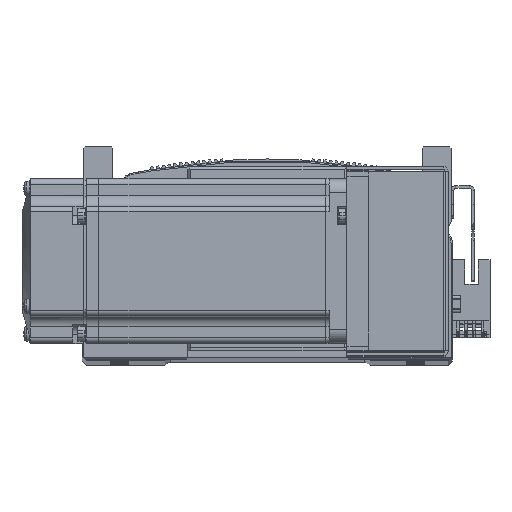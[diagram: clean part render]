
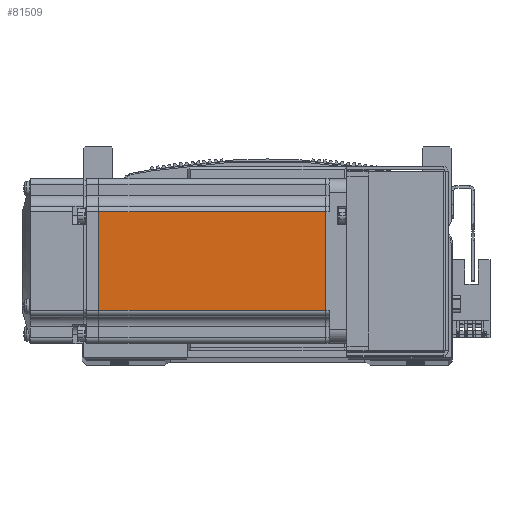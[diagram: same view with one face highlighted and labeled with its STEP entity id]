
A CAD part, top view. The second image highlights one B-rep face of the part: STEP entity #81509.
In plain terms, the highlighted planar face has unit normal (0, 0, 1) as drawn and (0, -1, 0) by its records, which use the part's own axes.
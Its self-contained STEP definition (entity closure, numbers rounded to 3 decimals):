
#322 = CARTESIAN_POINT ( 'NONE',  ( -7.75, -30., 18. ) ) ;
#326 = CARTESIAN_POINT ( 'NONE',  ( -90.45, -30., -18. ) ) ;
#352 = CARTESIAN_POINT ( 'NONE',  ( -90.45, -30., 18. ) ) ;
#422 = CARTESIAN_POINT ( 'NONE',  ( -7.75, -30., -18. ) ) ;
#5723 = FACE_OUTER_BOUND ( 'NONE', #40650, .T. ) ;
#6323 = EDGE_CURVE ( 'NONE', #74642, #74656, #35596, .T. ) ;
#6361 = EDGE_CURVE ( 'NONE', #74642, #74721, #35949, .T. ) ;
#6447 = EDGE_CURVE ( 'NONE', #74721, #74651, #36035, .T. ) ;
#6571 = EDGE_CURVE ( 'NONE', #74656, #74651, #36272, .T. ) ;
#13757 = AXIS2_PLACEMENT_3D ( 'NONE', #25677, #25678, #25696 ) ;
#25677 = CARTESIAN_POINT ( 'NONE',  ( -6.5, -30., -25. ) ) ;
#25678 = DIRECTION ( 'NONE',  ( 0., -1., 0. ) ) ;
#25696 = DIRECTION ( 'NONE',  ( 0., 0., -1. ) ) ;
#25708 = PLANE ( 'NONE',  #13757 ) ;
#35596 = LINE ( 'NONE', #82142, #35736 ) ;
#35736 = VECTOR ( 'NONE', #82103, 1000. ) ;
#35790 = VECTOR ( 'NONE', #82154, 1000. ) ;
#35949 = LINE ( 'NONE', #82163, #35790 ) ;
#36035 = LINE ( 'NONE', #82241, #36175 ) ;
#36175 = VECTOR ( 'NONE', #82290, 1000. ) ;
#36272 = LINE ( 'NONE', #82444, #36305 ) ;
#36305 = VECTOR ( 'NONE', #82420, 1000. ) ;
#40650 = EDGE_LOOP ( 'NONE', ( #80737, #80754, #80755, #80740 ) ) ;
#74642 = VERTEX_POINT ( 'NONE', #322 ) ;
#74651 = VERTEX_POINT ( 'NONE', #326 ) ;
#74656 = VERTEX_POINT ( 'NONE', #352 ) ;
#74721 = VERTEX_POINT ( 'NONE', #422 ) ;
#80737 = ORIENTED_EDGE ( 'NONE', *, *, #6361, .F. ) ;
#80740 = ORIENTED_EDGE ( 'NONE', *, *, #6447, .F. ) ;
#80754 = ORIENTED_EDGE ( 'NONE', *, *, #6323, .T. ) ;
#80755 = ORIENTED_EDGE ( 'NONE', *, *, #6571, .T. ) ;
#81509 = ADVANCED_FACE ( 'NONE', ( #5723 ), #25708, .T. ) ;
#82103 = DIRECTION ( 'NONE',  ( -1., 0., 0. ) ) ;
#82142 = CARTESIAN_POINT ( 'NONE',  ( -6.5, -30., 18. ) ) ;
#82154 = DIRECTION ( 'NONE',  ( 0., 0., -1. ) ) ;
#82163 = CARTESIAN_POINT ( 'NONE',  ( -7.75, -30., 0. ) ) ;
#82241 = CARTESIAN_POINT ( 'NONE',  ( -6.5, -30., -18. ) ) ;
#82290 = DIRECTION ( 'NONE',  ( -1., 0., 0. ) ) ;
#82420 = DIRECTION ( 'NONE',  ( 0., 0., -1. ) ) ;
#82444 = CARTESIAN_POINT ( 'NONE',  ( -90.45, -30., 0. ) ) ;
